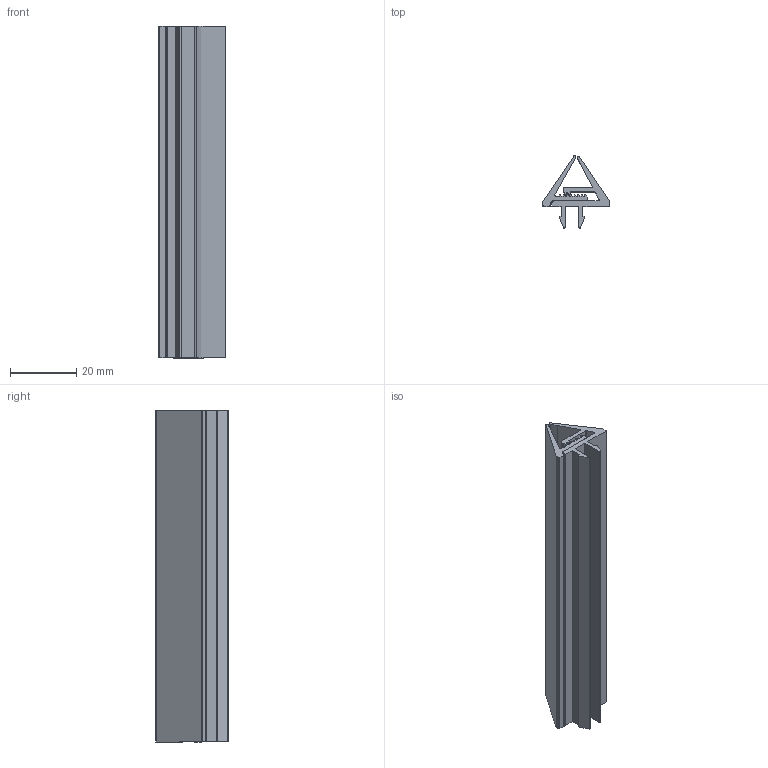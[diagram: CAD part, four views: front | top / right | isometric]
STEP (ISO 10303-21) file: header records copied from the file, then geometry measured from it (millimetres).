
FILE_DESCRIPTION(/* description */ (''),/* implementation_level */ '2;1');
FILE_NAME(/* name */ 'C:\Users\Owner\Documents\硯聰\Inv材料庫-3D新型錄\AMF-飾條配件\6系列\AMG-06.stp',/* time_stamp */ '2019-03-08T11:16:51+08:00',/* author */ ('Owner'),/* organization */ (''),/* preprocessor_version */ 'ST-DEVELOPER v16.1',/* originating_system */ 'Autodesk Inventor 2016',/* authorisation */ '');
FILE_SCHEMA (('AUTOMOTIVE_DESIGN { 1 0 10303 214 3 1 1 }'));
Length unit declared in the file: millimetre
Products named in the file (3): 零件1042; 零件1043; AMG-06
Assembly tree (2 placements, depth 2):
  AMG-06
    零件1042
    零件1043
Bounding box: 20 x 21.72 x 100 mm (x, y, z)
Volume: 12149.5 mm3; surface area: 17871.5 mm2
Topology: 2 solids, 2 shells, 93 faces, 267 edges, 178 vertices
Faces by surface type: plane 64, cylinder 29
Entity records: 3104 total; most frequent: CARTESIAN_POINT 543, ORIENTED_EDGE 534, DIRECTION 521, EDGE_CURVE 267, LINE 209, VECTOR 209, VERTEX_POINT 178, AXIS2_PLACEMENT_3D 156
